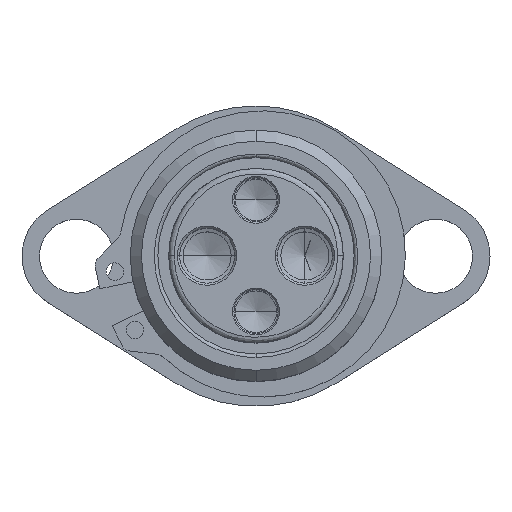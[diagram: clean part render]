
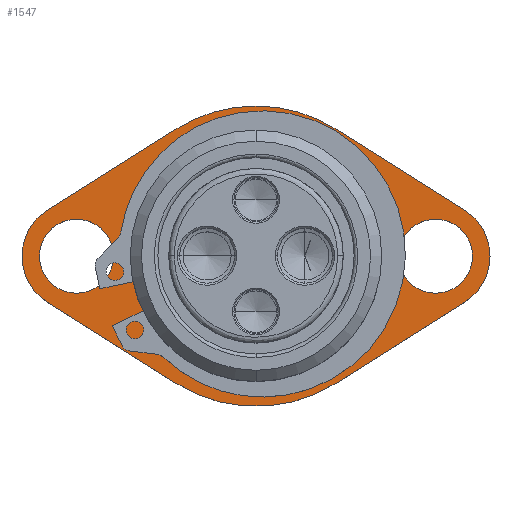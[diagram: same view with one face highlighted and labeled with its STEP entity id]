
A CAD part, top view. The second image highlights one B-rep face of the part: STEP entity #1547.
In plain terms, the highlighted planar face has unit normal (0, 0, 1) as drawn and (0, 1, 0) by its records, which use the part's own axes.
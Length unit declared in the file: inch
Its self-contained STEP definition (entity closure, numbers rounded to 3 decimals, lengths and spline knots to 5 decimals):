
#2 = DIRECTION ( 'NONE',  ( 0., -1., 0. ) ) ;
#30 = DIRECTION ( 'NONE',  ( 0., -1., 0. ) ) ;
#36 = VECTOR ( 'NONE', #4854, 39.37008 ) ;
#66 = CIRCLE ( 'NONE', #6000, 0.265 ) ;
#108 = CIRCLE ( 'NONE', #1198, 1.075 ) ;
#126 = CARTESIAN_POINT ( 'NONE',  ( 0.57305, 0.25, -0.90952 ) ) ;
#137 = VERTEX_POINT ( 'NONE', #143 ) ;
#143 = CARTESIAN_POINT ( 'NONE',  ( 0., 0.25, -0.9 ) ) ;
#353 = CARTESIAN_POINT ( 'NONE',  ( 0., 0.25, -1.075 ) ) ;
#371 = CIRCLE ( 'NONE', #1560, 1.075 ) ;
#377 = DIRECTION ( 'NONE',  ( 0., 0., -1. ) ) ;
#415 = AXIS2_PLACEMENT_3D ( 'NONE', #1812, #6211, #377 ) ;
#416 = DIRECTION ( 'NONE',  ( 0., 0., -1. ) ) ;
#492 = EDGE_CURVE ( 'NONE', #2455, #5682, #108, .T. ) ;
#496 = CARTESIAN_POINT ( 'NONE',  ( 0., 0.25, 0. ) ) ;
#588 = ORIENTED_EDGE ( 'NONE', *, *, #726, .F. ) ;
#605 = DIRECTION ( 'NONE',  ( 0., 0., -1. ) ) ;
#613 = CARTESIAN_POINT ( 'NONE',  ( -1.285, 0.25, 0. ) ) ;
#685 = DIRECTION ( 'NONE',  ( 0., 0., -1. ) ) ;
#719 = ORIENTED_EDGE ( 'NONE', *, *, #5752, .T. ) ;
#722 = ORIENTED_EDGE ( 'NONE', *, *, #1000, .T. ) ;
#726 = EDGE_CURVE ( 'NONE', #4638, #2455, #5348, .T. ) ;
#837 = EDGE_CURVE ( 'NONE', #1297, #5961, #2101, .T. ) ;
#846 = EDGE_CURVE ( 'NONE', #137, #4899, #5203, .T. ) ;
#901 = CARTESIAN_POINT ( 'NONE',  ( 1.285, 0.25, 0. ) ) ;
#1000 = EDGE_CURVE ( 'NONE', #1297, #5682, #4372, .T. ) ;
#1082 = DIRECTION ( 'NONE',  ( 0., -1., 0. ) ) ;
#1093 = EDGE_CURVE ( 'NONE', #5529, #1156, #5484, .T. ) ;
#1121 = ORIENTED_EDGE ( 'NONE', *, *, #492, .F. ) ;
#1149 = ORIENTED_EDGE ( 'NONE', *, *, #5312, .T. ) ;
#1156 = VERTEX_POINT ( 'NONE', #3775 ) ;
#1198 = AXIS2_PLACEMENT_3D ( 'NONE', #3558, #30, #4450 ) ;
#1210 = CARTESIAN_POINT ( 'NONE',  ( -1.285, 0.25, 0. ) ) ;
#1274 = DIRECTION ( 'NONE',  ( 0., -1., 0. ) ) ;
#1282 = VERTEX_POINT ( 'NONE', #5211 ) ;
#1297 = VERTEX_POINT ( 'NONE', #4274 ) ;
#1338 = CARTESIAN_POINT ( 'NONE',  ( -1.285, 0.25, 0. ) ) ;
#1408 = EDGE_CURVE ( 'NONE', #1282, #2740, #5047, .T. ) ;
#1506 = VERTEX_POINT ( 'NONE', #2298 ) ;
#1547 = ADVANCED_FACE ( 'NONE', ( #2168, #1552, #5951, #2315 ), #4236, .T. ) ;
#1552 = FACE_OUTER_BOUND ( 'NONE', #5762, .T. ) ;
#1560 = AXIS2_PLACEMENT_3D ( 'NONE', #496, #3932, #685 ) ;
#1570 = CARTESIAN_POINT ( 'NONE',  ( -1.4929, 0.25, 0.32997 ) ) ;
#1581 = VERTEX_POINT ( 'NONE', #4770 ) ;
#1696 = CARTESIAN_POINT ( 'NONE',  ( 0., 0.25, 0.9 ) ) ;
#1786 = EDGE_CURVE ( 'NONE', #3590, #3366, #371, .T. ) ;
#1812 = CARTESIAN_POINT ( 'NONE',  ( 0., 0.25, 0. ) ) ;
#1885 = CARTESIAN_POINT ( 'NONE',  ( 0., 0.25, 0. ) ) ;
#1925 = EDGE_CURVE ( 'NONE', #1506, #1581, #4510, .T. ) ;
#2022 = DIRECTION ( 'NONE',  ( 0., -1., 0. ) ) ;
#2101 = CIRCLE ( 'NONE', #4249, 0.39 ) ;
#2106 = ORIENTED_EDGE ( 'NONE', *, *, #1093, .F. ) ;
#2168 = FACE_BOUND ( 'NONE', #2369, .T. ) ;
#2174 = CARTESIAN_POINT ( 'NONE',  ( 0.57305, 0.25, -0.90952 ) ) ;
#2181 = EDGE_LOOP ( 'NONE', ( #4878, #5477 ) ) ;
#2203 = VECTOR ( 'NONE', #3752, 39.37008 ) ;
#2298 = CARTESIAN_POINT ( 'NONE',  ( 1.285, 0.25, 0.265 ) ) ;
#2315 = FACE_BOUND ( 'NONE', #2181, .T. ) ;
#2333 = LINE ( 'NONE', #1570, #2416 ) ;
#2369 = EDGE_LOOP ( 'NONE', ( #4047, #2514 ) ) ;
#2416 = VECTOR ( 'NONE', #5004, 39.37008 ) ;
#2452 = DIRECTION ( 'NONE',  ( 0., -1., 0. ) ) ;
#2455 = VERTEX_POINT ( 'NONE', #353 ) ;
#2514 = ORIENTED_EDGE ( 'NONE', *, *, #1408, .T. ) ;
#2627 = DIRECTION ( 'NONE',  ( 0., -1., 0. ) ) ;
#2683 = ORIENTED_EDGE ( 'NONE', *, *, #4951, .T. ) ;
#2740 = VERTEX_POINT ( 'NONE', #2743 ) ;
#2743 = CARTESIAN_POINT ( 'NONE',  ( -1.285, 0.25, -0.265 ) ) ;
#2815 = CARTESIAN_POINT ( 'NONE',  ( 1.4929, 0.25, 0.32997 ) ) ;
#2829 = CIRCLE ( 'NONE', #4344, 0.9 ) ;
#3047 = AXIS2_PLACEMENT_3D ( 'NONE', #5976, #5022, #4960 ) ;
#3291 = DIRECTION ( 'NONE',  ( 0., 1., 0. ) ) ;
#3306 = EDGE_LOOP ( 'NONE', ( #4741, #5234 ) ) ;
#3308 = CARTESIAN_POINT ( 'NONE',  ( 0.57305, 0.25, 0.90952 ) ) ;
#3366 = VERTEX_POINT ( 'NONE', #3469 ) ;
#3386 = AXIS2_PLACEMENT_3D ( 'NONE', #3638, #4113, #5101 ) ;
#3469 = CARTESIAN_POINT ( 'NONE',  ( -0.57305, 0.25, 0.90952 ) ) ;
#3497 = AXIS2_PLACEMENT_3D ( 'NONE', #5518, #2627, #5540 ) ;
#3558 = CARTESIAN_POINT ( 'NONE',  ( 0., 0.25, 0. ) ) ;
#3590 = VERTEX_POINT ( 'NONE', #4989 ) ;
#3638 = CARTESIAN_POINT ( 'NONE',  ( 1.285, 0.25, 0. ) ) ;
#3664 = EDGE_CURVE ( 'NONE', #2740, #1282, #66, .T. ) ;
#3752 = DIRECTION ( 'NONE',  ( 0.846, 0., -0.533 ) ) ;
#3775 = CARTESIAN_POINT ( 'NONE',  ( -1.4929, 0.25, -0.32997 ) ) ;
#3849 = VECTOR ( 'NONE', #4111, 39.37008 ) ;
#3859 = DIRECTION ( 'NONE',  ( 0., 0., -1. ) ) ;
#3896 = ORIENTED_EDGE ( 'NONE', *, *, #837, .F. ) ;
#3911 = EDGE_CURVE ( 'NONE', #4899, #137, #2829, .T. ) ;
#3932 = DIRECTION ( 'NONE',  ( 0., -1., 0. ) ) ;
#3942 = CARTESIAN_POINT ( 'NONE',  ( -1.4929, 0.25, 0.32997 ) ) ;
#3976 = ORIENTED_EDGE ( 'NONE', *, *, #1786, .F. ) ;
#4047 = ORIENTED_EDGE ( 'NONE', *, *, #3664, .T. ) ;
#4052 = DIRECTION ( 'NONE',  ( 0., 0., -1. ) ) ;
#4111 = DIRECTION ( 'NONE',  ( -0.846, 0., -0.533 ) ) ;
#4113 = DIRECTION ( 'NONE',  ( 0., -1., 0. ) ) ;
#4214 = AXIS2_PLACEMENT_3D ( 'NONE', #1338, #3291, #5176 ) ;
#4236 = PLANE ( 'NONE',  #4214 ) ;
#4249 = AXIS2_PLACEMENT_3D ( 'NONE', #901, #2, #3859 ) ;
#4274 = CARTESIAN_POINT ( 'NONE',  ( 1.4929, 0.25, -0.32997 ) ) ;
#4344 = AXIS2_PLACEMENT_3D ( 'NONE', #5442, #2022, #605 ) ;
#4372 = LINE ( 'NONE', #2174, #3849 ) ;
#4431 = EDGE_CURVE ( 'NONE', #1581, #1506, #4841, .T. ) ;
#4450 = DIRECTION ( 'NONE',  ( 0., 0., -1. ) ) ;
#4481 = AXIS2_PLACEMENT_3D ( 'NONE', #1210, #1274, #6167 ) ;
#4510 = CIRCLE ( 'NONE', #3497, 0.265 ) ;
#4621 = LINE ( 'NONE', #5750, #36 ) ;
#4638 = VERTEX_POINT ( 'NONE', #6206 ) ;
#4741 = ORIENTED_EDGE ( 'NONE', *, *, #4431, .T. ) ;
#4770 = CARTESIAN_POINT ( 'NONE',  ( 1.285, 0.25, -0.265 ) ) ;
#4841 = CIRCLE ( 'NONE', #3386, 0.265 ) ;
#4854 = DIRECTION ( 'NONE',  ( -0.846, 0., 0.533 ) ) ;
#4878 = ORIENTED_EDGE ( 'NONE', *, *, #846, .T. ) ;
#4899 = VERTEX_POINT ( 'NONE', #1696 ) ;
#4951 = EDGE_CURVE ( 'NONE', #3590, #5961, #6126, .T. ) ;
#4960 = DIRECTION ( 'NONE',  ( 0., 0., -1. ) ) ;
#4989 = CARTESIAN_POINT ( 'NONE',  ( 0.57305, 0.25, 0.90952 ) ) ;
#5004 = DIRECTION ( 'NONE',  ( 0.846, 0., 0.533 ) ) ;
#5022 = DIRECTION ( 'NONE',  ( 0., -1., 0. ) ) ;
#5047 = CIRCLE ( 'NONE', #3047, 0.265 ) ;
#5101 = DIRECTION ( 'NONE',  ( 0., 0., -1. ) ) ;
#5176 = DIRECTION ( 'NONE',  ( 0., 0., 1. ) ) ;
#5203 = CIRCLE ( 'NONE', #6178, 0.9 ) ;
#5211 = CARTESIAN_POINT ( 'NONE',  ( -1.285, 0.25, 0.265 ) ) ;
#5234 = ORIENTED_EDGE ( 'NONE', *, *, #1925, .T. ) ;
#5312 = EDGE_CURVE ( 'NONE', #4638, #1156, #4621, .T. ) ;
#5348 = CIRCLE ( 'NONE', #415, 1.075 ) ;
#5442 = CARTESIAN_POINT ( 'NONE',  ( 0., 0.25, 0. ) ) ;
#5477 = ORIENTED_EDGE ( 'NONE', *, *, #3911, .T. ) ;
#5484 = CIRCLE ( 'NONE', #4481, 0.39 ) ;
#5518 = CARTESIAN_POINT ( 'NONE',  ( 1.285, 0.25, 0. ) ) ;
#5529 = VERTEX_POINT ( 'NONE', #3942 ) ;
#5540 = DIRECTION ( 'NONE',  ( 0., 0., -1. ) ) ;
#5682 = VERTEX_POINT ( 'NONE', #126 ) ;
#5750 = CARTESIAN_POINT ( 'NONE',  ( -1.4929, 0.25, -0.32997 ) ) ;
#5752 = EDGE_CURVE ( 'NONE', #5529, #3366, #2333, .T. ) ;
#5762 = EDGE_LOOP ( 'NONE', ( #588, #1149, #2106, #719, #3976, #2683, #3896, #722, #1121 ) ) ;
#5951 = FACE_BOUND ( 'NONE', #3306, .T. ) ;
#5961 = VERTEX_POINT ( 'NONE', #2815 ) ;
#5976 = CARTESIAN_POINT ( 'NONE',  ( -1.285, 0.25, 0. ) ) ;
#6000 = AXIS2_PLACEMENT_3D ( 'NONE', #613, #1082, #4052 ) ;
#6126 = LINE ( 'NONE', #3308, #2203 ) ;
#6167 = DIRECTION ( 'NONE',  ( 0., 0., -1. ) ) ;
#6178 = AXIS2_PLACEMENT_3D ( 'NONE', #1885, #2452, #416 ) ;
#6206 = CARTESIAN_POINT ( 'NONE',  ( -0.57305, 0.25, -0.90952 ) ) ;
#6211 = DIRECTION ( 'NONE',  ( 0., -1., 0. ) ) ;
